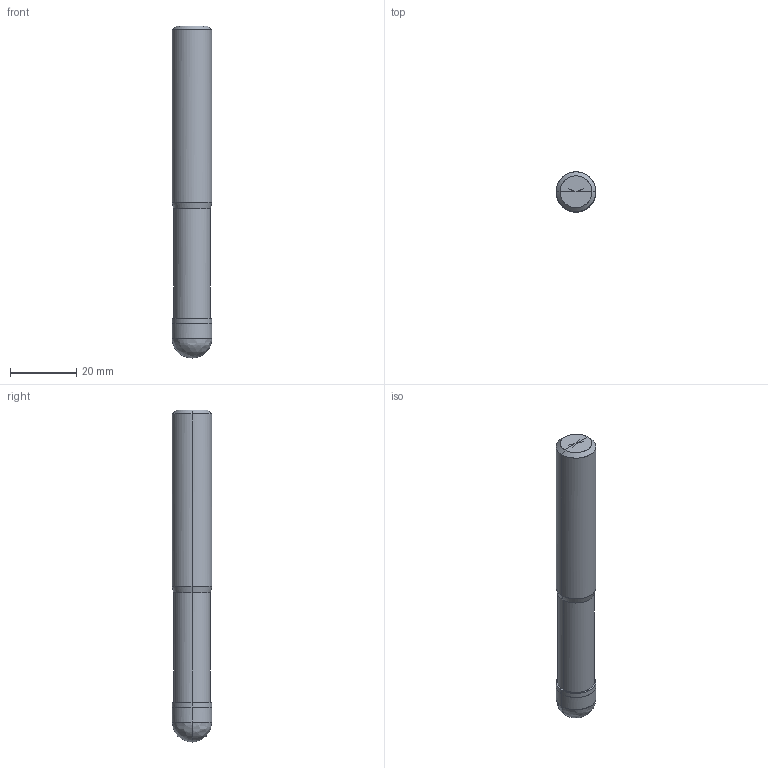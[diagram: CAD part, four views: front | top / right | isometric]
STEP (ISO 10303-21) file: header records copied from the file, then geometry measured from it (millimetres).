
FILE_DESCRIPTION(/* description */ (''),/* implementation_level */ '2;1');
FILE_NAME(/*name*/ '2102-12.0',/*time_stamp*/'2021-7-5T11:46:35',/*author*/ ('ISBE GmbH'),/*organization*/ ('ISBE GmbH'),/*preprocessor_version*/ 'STEP IO v1.0',/*originating_system*/ '',/*authorisation*/ '');
FILE_SCHEMA (('AUTOMOTIVE_DESIGN'));
Length unit declared in the file: millimetre
Products named in the file (1): Document
Bounding box: 12 x 12 x 100 mm (x, y, z)
Surface area: 4000.3 mm2 (no closed solid volume)
Topology: 0 solids, 22 shells, 22 faces, 90 edges, 84 vertices
Faces by surface type: bspline 22
Entity records: 657 total; most frequent: CARTESIAN_POINT 272, VERTEX_POINT 80, EDGE_CURVE 80, ORIENTED_EDGE 80, EDGE_LOOP 22, FACE_OUTER_BOUND 22, ADVANCED_FACE 22, DIRECTION 16
